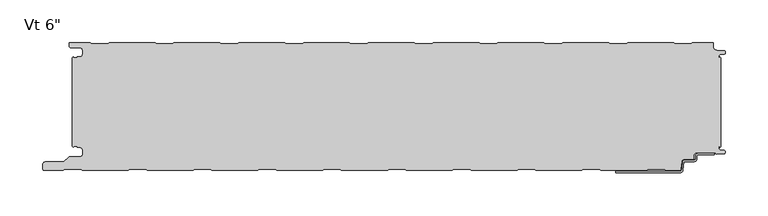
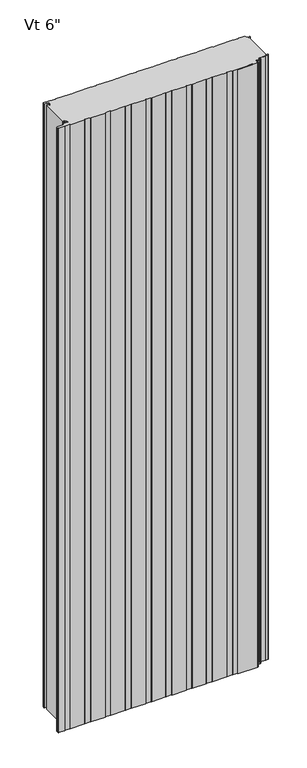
"""IFC4 building model written with IfcOpenShell, lengths in millimetres: plate geometry."""

from ifc_helpers import new_model, si_unit, point, frame, frame_2d, origin, origin_with_axes, place, context, project, spatial, polyline, circle_curve, trimmed, segment, composite_curve, outline, extrude, source, transform, mapped, element, save
from ifc_brep_helpers import plane_surface, cylinder_surface, revolved_surface, advanced_brep


def plate_715b7b63(model_context):
    return source(origin(), model_context, "Body", "SolidModel", [
        advanced_brep(
        [(354.8464083, -131.3008679, 0.0), (373.5916083, -131.3008679, 0.0), (373.5916083, -132.8248679, 0.0), (354.8464083, -132.8248679, 0.0), (353.3224083, -134.3488679, 0.0), (353.3224083, -137.4476679, 0.0), (349.8680083, -140.9020679, 0.0), (338.655451, -140.9020679, 0.0), (337.8963506, -141.5976552, 0.0), (336.701523, -151.1416507, 0.0), (333.6651216, -153.924, 0.0), (258.0978083, -153.9360323, 0.0), (258.0978083, -152.4, 0.0), (333.6651216, -152.4, 0.0), (335.1833223, -151.0088254, 0.0), (336.3781499, -141.4648299, 0.0), (338.655451, -139.3780679, 0.0), (349.8680083, -139.3780679, 0.0), (351.7984083, -137.4476679, 0.0), (351.7984083, -134.3488679, 0.0), (354.8464083, -131.3008679, 2400.0), (351.7984083, -134.3488679, 2400.0), (351.7984083, -137.4476679, 2400.0), (349.8680083, -139.3780679, 2400.0), (338.655451, -139.3780679, 2400.0), (336.3781499, -141.4648299, 2400.0), (335.1833223, -151.0088254, 2400.0), (333.6651216, -152.4, 2400.0), (258.0978083, -152.4, 2400.0), (258.0978083, -153.9360323, 2400.0), (333.6651216, -153.9360323, 2400.0), (336.701523, -151.1416507, 2400.0), (337.8963506, -141.5976552, 2400.0), (338.655451, -140.9020679, 2400.0), (349.8680083, -140.9020679, 2400.0), (353.3224083, -137.4476679, 2400.0), (353.3224083, -134.3488679, 2400.0), (354.8464083, -132.8248679, 2400.0), (373.5916083, -132.8248679, 2400.0), (373.5916083, -131.3008679, 2400.0)],
        [
            (0, 1),
            (1, 2),
            (2, 3),
            (3, 4, circle_curve(frame((354.8464083, -134.3488679, 0.0), z_axis=(0.0, 0.0, 1.0), x_axis=(0.0, 1.0, 0.0)), 1.524)),
            (4, 5),
            (5, 6, circle_curve(frame((349.8680083, -137.4476679, 0.0), z_axis=(0.0, 0.0, -1.0), x_axis=(0.0, 1.0, 0.0)), 3.4544)),
            (6, 7),
            (7, 8, circle_curve(frame((338.655451, -141.6640679, 0.0), z_axis=(0.0, 0.0, 1.0), x_axis=(0.0, 1.0, 0.0)), 0.762)),
            (8, 9),
            (9, 10, circle_curve(frame((333.6651216, -150.876, 0.0), z_axis=(0.0, 0.0, -1.0), x_axis=(0.0, 1.0, 0.0)), 3.048)),
            (10, 11),
            (11, 12),
            (12, 13),
            (13, 14, circle_curve(frame((333.6651216, -150.876, 0.0), z_axis=(0.0, 0.0, 1.0), x_axis=(0.0, 1.0, 0.0)), 1.524)),
            (14, 15),
            (15, 16, circle_curve(frame((338.655451, -141.6640679, 0.0), z_axis=(0.0, 0.0, -1.0), x_axis=(0.0, 1.0, 0.0)), 2.286)),
            (16, 17),
            (17, 18, circle_curve(frame((349.8680083, -137.4476679, 0.0), z_axis=(0.0, 0.0, 1.0), x_axis=(0.0, 1.0, 0.0)), 1.9304)),
            (18, 19),
            (19, 0, circle_curve(frame((354.8464083, -134.3488679, 0.0), z_axis=(0.0, 0.0, -1.0), x_axis=(0.0, 1.0, 0.0)), 3.048)),
            (20, 21, circle_curve(frame((354.8464083, -134.3488679, 2400.0), z_axis=(0.0, 0.0, 1.0), x_axis=(0.0, 1.0, 0.0)), 3.048)),
            (21, 22),
            (22, 23, circle_curve(frame((349.8680083, -137.4476679, 2400.0), z_axis=(0.0, 0.0, -1.0), x_axis=(0.0, 1.0, 0.0)), 1.9304)),
            (23, 24),
            (24, 25, circle_curve(frame((338.655451, -141.6640679, 2400.0), z_axis=(0.0, 0.0, 1.0), x_axis=(0.0, 1.0, 0.0)), 2.286)),
            (25, 26),
            (26, 27, circle_curve(frame((333.6651216, -150.876, 2400.0), z_axis=(0.0, 0.0, -1.0), x_axis=(0.0, 1.0, 0.0)), 1.524)),
            (27, 28),
            (28, 29),
            (29, 30),
            (30, 31, circle_curve(frame((333.6651216, -150.876, 2400.0), z_axis=(0.0, 0.0, 1.0), x_axis=(0.0, 1.0, 0.0)), 3.048)),
            (31, 32),
            (32, 33, circle_curve(frame((338.655451, -141.6640679, 2400.0), z_axis=(0.0, 0.0, -1.0), x_axis=(0.0, 1.0, 0.0)), 0.762)),
            (33, 34),
            (34, 35, circle_curve(frame((349.8680083, -137.4476679, 2400.0), z_axis=(0.0, 0.0, 1.0), x_axis=(0.0, 1.0, 0.0)), 3.4544)),
            (35, 36),
            (36, 37, circle_curve(frame((354.8464083, -134.3488679, 2400.0), z_axis=(0.0, 0.0, -1.0), x_axis=(0.0, 1.0, 0.0)), 1.524)),
            (37, 38),
            (38, 39),
            (39, 20),
            (2, 38),
            (37, 3),
            (15, 25),
            (24, 16),
            (7, 33),
            (32, 8),
            (5, 35),
            (34, 6),
            (1, 39),
            (36, 4),
            (9, 31),
            (30, 10),
            (13, 27),
            (26, 14),
            (0, 20),
            (12, 28),
            (29, 11),
            (23, 17),
            (18, 22),
            (21, 19),
        ],
        [
            plane_surface(frame((373.5916083, -152.4, 0.0), z_axis=(0.0, 0.0, -1.0), x_axis=(-1.0, 0.0, 0.0))),
            plane_surface(frame((373.5916083, -152.4, 2400.0), z_axis=(0.0, 0.0, 1.0), x_axis=(-1.0, 0.0, 0.0))),
            plane_surface(frame((354.8464083, -132.8248679, 0.0), z_axis=(0.0, -1.0, 0.0), x_axis=(0.0, 0.0, 1.0))),
            cylinder_surface(frame((338.655451, -141.6640679, 0.0), z_axis=(0.0, 0.0, -1.0), x_axis=(0.0, 1.0, 0.0)), 2.286),
            revolved_surface(polyline([(338.655451, -140.9020679, 2400.0), (338.655451, -140.9020679, 0.0)]), (338.655451, -141.6640679, 0.0), (0.0, 0.0, 1.0)),
            cylinder_surface(frame((349.8680083, -137.4476679, 0.0), z_axis=(0.0, 0.0, -1.0), x_axis=(0.0, 1.0, 0.0)), 3.4544),
            plane_surface(frame((373.5916083, -132.8248679, 0.0), z_axis=(1.0, 0.0, 0.0), x_axis=(0.0, 0.0, 1.0))),
            revolved_surface(polyline([(354.8464083, -132.8248679, 2400.0), (354.8464083, -132.8248679, 0.0)]), (354.8464083, -134.3488679, 0.0), (0.0, 0.0, 1.0)),
            cylinder_surface(frame((333.6651216, -150.876, 0.0), z_axis=(0.0, 0.0, -1.0), x_axis=(0.0, 1.0, 0.0)), 3.048),
            revolved_surface(polyline([(333.6651216, -149.352, 2400.0), (333.6651216, -149.352, 0.0)]), (333.6651216, -150.876, 0.0), (0.0, 0.0, 1.0)),
            plane_surface(frame((373.5916083, -131.3008679, 0.0), z_axis=(0.0, 1.0, 0.0), x_axis=(0.0, 0.0, 1.0))),
            plane_surface(frame((336.3781499, -141.4648299, 0.0), z_axis=(-0.9922544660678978, 0.12422187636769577, 0.0), x_axis=(0.0, 0.0, 1.0))),
            plane_surface(frame((333.6651216, -152.4, 0.0), z_axis=(0.0, 1.0, 0.0), x_axis=(0.0, 0.0, 1.0))),
            plane_surface(frame((336.701523, -151.1416507, 0.0), z_axis=(0.9922544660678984, -0.12422187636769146, 0.0), x_axis=(0.0, 0.0, 1.0))),
            plane_surface(frame((353.3224083, -137.4476679, 0.0), z_axis=(1.0, 0.0, 0.0), x_axis=(0.0, 0.0, 1.0))),
            plane_surface(frame((258.0978083, -153.9360323, 0.0), z_axis=(0.0, -1.0, 0.0), x_axis=(0.0, 0.0, 1.0))),
            plane_surface(frame((258.0978083, -152.4, 0.0), z_axis=(-1.0, 0.0, 0.0), x_axis=(0.0, 0.0, 1.0))),
            plane_surface(frame((349.8680083, -139.3780679, 0.0), z_axis=(0.0, 1.0, 0.0), x_axis=(0.0, 0.0, 1.0))),
            plane_surface(frame((351.7984083, -134.3488679, 0.0), z_axis=(-1.0, 0.0, 0.0), x_axis=(0.0, 0.0, 1.0))),
            plane_surface(frame((338.655451, -140.9020679, 0.0), z_axis=(0.0, -1.0, 0.0), x_axis=(0.0, 0.0, 1.0))),
            revolved_surface(polyline([(349.8680083, -135.5172679, 2400.0), (349.8680083, -135.5172679, 0.0)]), (349.8680083, -137.4476679, 0.0), (0.0, 0.0, 1.0)),
            cylinder_surface(frame((354.8464083, -134.3488679, 0.0), z_axis=(0.0, 0.0, -1.0), x_axis=(0.0, 1.0, 0.0)), 3.048),
        ],
        [
            (0, [[1, 2, 3, 4, 5, 6, 7, 8, 9, 10, 11, 12, 13, 14, 15, 16, 17, 18, 19, 20]]),
            (1, [[21, 22, 23, 24, 25, 26, 27, 28, 29, 30, 31, 32, 33, 34, 35, 36, 37, 38, 39, 40]]),
            (2, [[41, -38, 42, -3]]),
            (3, [[43, -25, 44, -16]]),
            (4, [[45, -33, 46, -8]]),
            (5, [[47, -35, 48, -6]]),
            (6, [[49, -39, -41, -2]]),
            (7, [[-42, -37, 50, -4]]),
            (8, [[51, -31, 52, -10]]),
            (9, [[53, -27, 54, -14]]),
            (10, [[55, -40, -49, -1]]),
            (11, [[-54, -26, -43, -15]]),
            (12, [[56, -28, -53, -13]]),
            (13, [[-46, -32, -51, -9]]),
            (14, [[-50, -36, -47, -5]]),
            (15, [[-52, -30, 57, -11]]),
            (16, [[-57, -29, -56, -12]]),
            (17, [[-44, -24, 58, -17]]),
            (18, [[59, -22, 60, -19]]),
            (19, [[-48, -34, -45, -7]]),
            (20, [[-58, -23, -59, -18]]),
            (21, [[-60, -21, -55, -20]]),
        ],
    ),
        extrude(outline(composite_curve([segment(polyline([(-379.9683001, -124.0760133), (-381.0, -123.0443135), (-381.0, -19.0328281), (-379.9686883, -18.0015165)]), True, "CONTINUOUS"), segment(trimmed(circle_curve(frame_2d((-378.9686911, -18.0015105)), 0.9999972), [point((-379.9686883, -18.0015165))], [point((-378.9686911, -19.0015077))], True, "CARTESIAN"), True, "CONTINUOUS"), segment(polyline([(-378.9686911, -19.0015077), (-374.9684875, -19.0015077), (-374.9684875, -18.0015132), (-372.2762777, -18.0015132)]), True, "CONTINUOUS"), segment(trimmed(circle_curve(frame_2d((-372.2762777, -14.7015175)), 3.2999957), [point((-372.2762777, -18.0015132))], [point((-368.976282, -14.7015175))], True, "CARTESIAN"), True, "CONTINUOUS"), segment(polyline([(-368.976282, -14.7015175), (-368.976282, -10.3015263)]), True, "CONTINUOUS"), segment(trimmed(circle_curve(frame_2d((-372.2762778, -10.3015263)), 3.2999959), [point((-368.976282, -10.3015263))], [point((-372.2762778, -7.0015304))], True, "CARTESIAN"), True, "CONTINUOUS"), segment(polyline([(-372.2762778, -7.0015304), (-382.6962564, -7.0015304)]), True, "CONTINUOUS"), segment(trimmed(circle_curve(frame_2d((-382.6962564, -5.2315362)), 1.7699942), [point((-382.6962564, -7.0015304))], [point((-384.4662506, -5.2315362))], False, "CARTESIAN"), True, "CONTINUOUS"), segment(polyline([(-384.4662506, -5.2315362), (-384.4662506, -0.9999889), (-359.965974, -0.9999889), (-358.5803313, -2.200228), (-339.205165, -2.200228), (-337.8195321, -0.9999973), (-283.7661167, -0.9999973), (-282.3804837, -2.200228), (-263.0053174, -2.200228), (-261.6196845, -0.9999973), (-207.5662691, -0.9999973), (-206.1806361, -2.200228), (-186.8054698, -2.200228), (-185.4198369, -0.9999973), (-131.3664215, -0.9999973), (-129.9807885, -2.200228), (-110.6056222, -2.200228), (-109.2199893, -0.9999973), (-55.1665739, -0.9999973), (-53.7809409, -2.200228), (-34.4057746, -2.200228), (-33.0201417, -0.9999973), (21.0332737, -0.9999973), (22.4189067, -2.200228), (41.794073, -2.200228), (43.1797059, -0.9999973), (97.2331213, -0.9999973), (98.6187543, -2.200228), (117.9939206, -2.200228), (119.3795535, -0.9999973), (173.4329689, -0.9999973), (174.8186019, -2.200228), (194.1937682, -2.200228), (195.5794011, -0.9999973), (249.6328165, -0.9999973), (251.0184495, -2.200228), (270.3936158, -2.200228), (271.7792487, -0.9999973), (325.8326641, -0.9999973), (327.2182971, -2.200228), (346.5934634, -2.200228), (347.9790963, -0.9999973), (372.4787013, -0.9999973), (372.4787013, -6.002598)]), True, "CONTINUOUS"), segment(trimmed(circle_curve(frame_2d((376.4939817, -5.9867311)), 4.0153117), [point((372.4787013, -6.002598))], [point((376.3016499, -9.9974338))], True, "CARTESIAN"), True, "CONTINUOUS"), segment(polyline([(376.3016499, -9.9974338), (384.7931719, -10.4046415)]), True, "CONTINUOUS"), segment(trimmed(circle_curve(frame_2d((384.6781032, -12.5552844)), 2.153719), [point((384.7931719, -10.4046415))], [point((384.7921924, -14.7059795))], False, "CARTESIAN"), True, "CONTINUOUS"), segment(polyline([(384.7921924, -14.7059795), (380.6513685, -14.9256402)]), True, "CONTINUOUS"), segment(trimmed(circle_curve(frame_2d((380.7186869, -16.6743434)), 1.7499985), [point((380.6513685, -14.9256402))], [point((378.9686884, -16.6743434))], True, "CARTESIAN"), True, "CONTINUOUS"), segment(polyline([(378.9686884, -16.6743434), (378.9686884, -19.0015261), (379.9686884, -19.0015261), (379.9686884, -17.5871382), (381.0, -18.6184498), (381.0, -123.4586918), (379.9686884, -124.4900034), (379.9686884, -122.9025034), (378.9686884, -122.9025034), (378.9686884, -125.68705)]), True, "CONTINUOUS"), segment(trimmed(circle_curve(frame_2d((380.8099653, -125.643489)), 1.8417922), [point((378.9686884, -125.68705))], [point((380.6977997, -127.4818625))], True, "CARTESIAN"), True, "CONTINUOUS"), segment(polyline([(380.6977997, -127.4818625), (384.7037148, -127.7262775)]), True, "CONTINUOUS"), segment(trimmed(circle_curve(frame_2d((384.6236622, -129.8266264)), 2.1018739), [point((384.7037148, -127.7262775))], [point((384.706811, -131.926855))], False, "CARTESIAN"), True, "CONTINUOUS"), segment(polyline([(384.706811, -131.926855), (375.7334028, -132.2821154), (374.5895515, -130.3012676), (353.4091924, -130.3012676)]), True, "CONTINUOUS"), segment(trimmed(circle_curve(frame_2d((353.4091924, -134.3007205)), 3.9994529), [point((353.4091924, -130.3012676))], [point((349.4097394, -134.3007205))], True, "CARTESIAN"), True, "CONTINUOUS"), segment(polyline([(349.4097394, -134.3007205), (349.4097394, -137.4443759)]), True, "CONTINUOUS"), segment(trimmed(circle_curve(frame_2d((348.4583308, -137.4443759)), 0.9514087), [point((349.4097394, -137.4443759))], [point((348.4583308, -138.3957846))], False, "CARTESIAN"), True, "CONTINUOUS"), segment(polyline([(348.4583308, -138.3957846), (338.3653654, -138.3957846)]), True, "CONTINUOUS"), segment(trimmed(circle_curve(frame_2d((338.2396267, -141.4231704)), 3.0299959), [point((338.3653654, -138.3957846))], [point((335.221161, -141.1590875))], True, "CARTESIAN"), True, "CONTINUOUS"), segment(polyline([(335.221161, -141.1590875), (334.4671075, -149.6178001)]), True, "CONTINUOUS"), segment(trimmed(circle_curve(frame_2d((332.5156233, -149.4461167)), 1.9590216), [point((334.4671075, -149.6178001))], [point((332.5156233, -151.4051384))], False, "CARTESIAN"), True, "CONTINUOUS"), segment(polyline([(332.5156233, -151.4051384), (316.4457079, -151.4051384), (315.2403361, -150.1997666), (295.5209236, -150.1997666), (294.3206929, -151.3999973), (240.2405611, -151.3999973), (239.0403304, -150.1997666), (219.3209179, -150.1997666), (218.1206872, -151.3999973), (164.0405554, -151.3999973), (162.8403247, -150.1997666), (143.1209122, -150.1997666), (141.9206815, -151.3999973), (87.8405497, -151.3999973), (86.640319, -150.1997666), (66.9209065, -150.1997666), (65.7206758, -151.3999973), (11.640544, -151.3999973), (10.4403133, -150.1997666), (-9.2790992, -150.1997666), (-10.4793299, -151.3999973), (-64.5594617, -151.3999973), (-65.7596924, -150.1997666), (-85.4791049, -150.1997666), (-86.6793356, -151.3999973), (-140.7594674, -151.3999973), (-141.9596981, -150.1997666), (-161.6791106, -150.1997666), (-162.8793413, -151.3999973), (-216.9594731, -151.3999973), (-218.1597038, -150.1997666), (-237.8791163, -150.1997666), (-239.079347, -151.3999973), (-293.1594787, -151.3999973), (-294.3597095, -150.1997666), (-314.079122, -150.1997666), (-315.2793527, -151.3999973), (-369.3594844, -151.3999973), (-370.5597151, -150.1997666), (-390.2791277, -150.1997666), (-391.4790962, -151.3997351), (-413.4521176, -151.3997351)]), True, "CONTINUOUS"), segment(trimmed(circle_curve(frame_2d((-413.4521176, -148.8294958)), 2.5702393), [point((-413.4521176, -151.3997351))], [point((-416.0125699, -148.6054102))], False, "CARTESIAN"), True, "CONTINUOUS"), segment(polyline([(-416.0125699, -148.6054102), (-415.5765709, -143.6235893)]), True, "CONTINUOUS"), segment(trimmed(circle_curve(frame_2d((-412.9198392, -144.1049799)), 2.6999926), [point((-415.5765709, -143.6235893))], [point((-412.9198392, -141.4049873))], False, "CARTESIAN"), True, "CONTINUOUS"), segment(polyline([(-412.9198392, -141.4049873), (-390.8247096, -141.4049873), (-385.3226385, -135.9029162)]), True, "CONTINUOUS"), segment(trimmed(circle_curve(frame_2d((-384.1205608, -137.1049939)), 1.6999946), [point((-385.3226385, -135.9029162))], [point((-384.1205608, -135.4049993))], False, "CARTESIAN"), True, "CONTINUOUS"), segment(polyline([(-384.1205608, -135.4049993), (-372.3096717, -135.4049993)]), True, "CONTINUOUS"), segment(trimmed(circle_curve(frame_2d((-372.3096717, -132.055004)), 3.3499953), [point((-372.3096717, -135.4049993))], [point((-368.9596764, -132.055004))], True, "CARTESIAN"), True, "CONTINUOUS"), segment(polyline([(-368.9596764, -132.055004), (-368.9596764, -127.6550128)]), True, "CONTINUOUS"), segment(trimmed(circle_curve(frame_2d((-372.3096717, -127.6550128)), 3.3499953), [point((-368.9596764, -127.6550128))], [point((-372.3096717, -124.3050175))], True, "CARTESIAN"), True, "CONTINUOUS"), segment(polyline([(-372.3096717, -124.3050175), (-375.0087827, -124.3050175), (-375.0087827, -122.9065386), (-378.7671761, -122.9065386)]), True, "CONTINUOUS"), segment(trimmed(circle_curve(frame_2d((-378.7686908, -124.1065352)), 1.1999976), [point((-378.7671761, -122.9065386))], [point((-379.9683001, -124.0760133))], True, "CARTESIAN"), True, "CONTINUOUS")], self_intersect=False)), origin_with_axes(), (0.0, 0.0, 1.0), 2400.0),
    ])


if __name__ == "__main__":
    model = new_model("IFC4")
    model_context = context("Model", 3, world=origin())
    ifc_project = project(units=[si_unit("LENGTHUNIT", "METRE", prefix="MILLI")], contexts=[model_context])
    site = spatial("IfcSite", under=ifc_project)
    building = spatial("IfcBuilding", under=site)
    placement = place(None, origin())
    plate_shape = plate_715b7b63(model_context)
    element("IfcPlate", 1, ObjectType="KIP-30-Karrier-KP-R19-CP-Vt-SL_SL : Vt 6\"", at=placement, inside=building, context=model_context, shape_type="MappedRepresentation", body=[
        mapped(plate_shape, transform((0.0, 0.0, 0.0), x_axis=(1.0, 0.0, 0.0), y_axis=(0.0, 1.0, 0.0), z_axis=(0.0, 0.0, 1.0))),
    ])
    save(model, "model.ifc")
